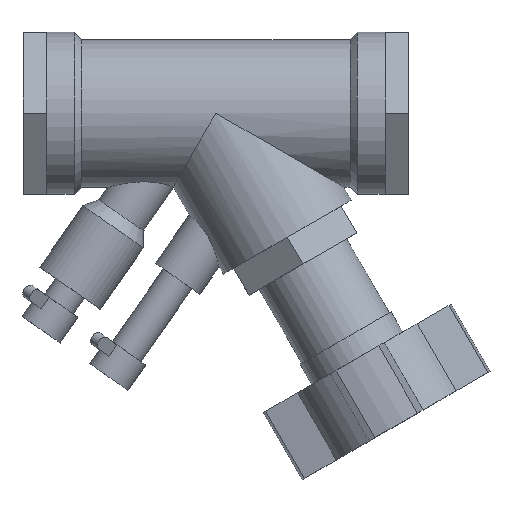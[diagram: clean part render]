
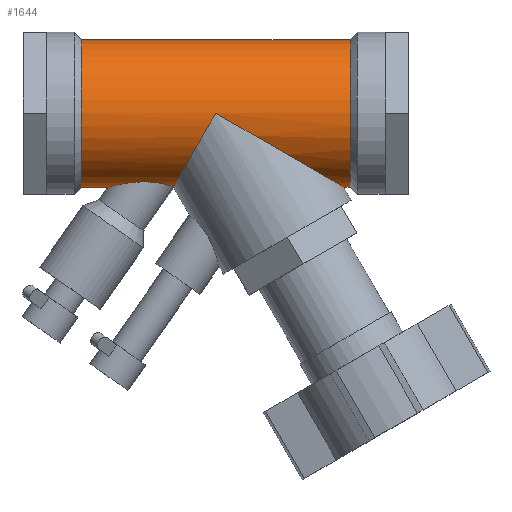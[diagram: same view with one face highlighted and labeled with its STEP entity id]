
A CAD part, top view. The second image highlights one B-rep face of the part: STEP entity #1644.
In plain terms, the highlighted cylindrical face has radius 24.13 mm (diameter 48.26 mm), a full revolution.
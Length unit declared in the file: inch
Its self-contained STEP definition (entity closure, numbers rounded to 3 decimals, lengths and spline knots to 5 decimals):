
#45=ELLIPSE('',#1804,1.9,0.95);
#46=ELLIPSE('',#1805,1.09697,0.95);
#47=ELLIPSE('',#1808,1.09697,0.95);
#48=ELLIPSE('',#1809,1.9,0.95);
#52=B_SPLINE_CURVE_WITH_KNOTS('',3,(#2694,#2695,#2696,#2697,#2698,#2699,
#2700,#2701,#2702,#2703,#2704,#2705,#2706,#2707,#2708,#2709,#2710,#2711,
#2712,#2713,#2714),.UNSPECIFIED.,.F.,.F.,(4,2,2,2,2,3,2,2,2,4),(4.43821,
4.60848,4.77874,5.11927,5.57319,6.02711,
6.40823,6.78935,7.12056,7.25581),
 .UNSPECIFIED.);
#53=B_SPLINE_CURVE_WITH_KNOTS('',3,(#2716,#2717,#2718,#2719,#2720,#2721,
#2722,#2723,#2724,#2725,#2726,#2727,#2728,#2729,#2730,#2731,#2732,#2733,
#2734,#2735),.UNSPECIFIED.,.F.,.F.,(4,2,2,2,2,2,2,2,2,4),(1.62062,
1.75587,2.08708,2.4682,2.84932,3.30324,
3.75715,4.09768,4.26795,4.43821),
 .UNSPECIFIED.);
#135=LINE('',#2748,#269);
#136=LINE('',#2753,#270);
#269=VECTOR('',#2168,0.95);
#270=VECTOR('',#2173,0.95);
#345=CYLINDRICAL_SURFACE('',#1802,0.95);
#415=FACE_OUTER_BOUND('',#510,.T.);
#510=EDGE_LOOP('',(#1234,#1235,#1236,#1237,#1238,#1239,#1240,#1241,#1242,
#1243,#1244,#1245,#1246,#1247));
#604=CIRCLE('',#1803,0.95);
#605=CIRCLE('',#1806,0.95);
#606=CIRCLE('',#1807,0.95);
#607=CIRCLE('',#1810,0.95);
#721=VERTEX_POINT('',#2687);
#723=VERTEX_POINT('',#2693);
#724=VERTEX_POINT('',#2715);
#725=VERTEX_POINT('',#2744);
#726=VERTEX_POINT('',#2745);
#727=VERTEX_POINT('',#2747);
#728=VERTEX_POINT('',#2749);
#729=VERTEX_POINT('',#2752);
#730=VERTEX_POINT('',#2754);
#731=VERTEX_POINT('',#2757);
#907=EDGE_CURVE('',#723,#721,#52,.T.);
#908=EDGE_CURVE('',#724,#723,#53,.T.);
#912=EDGE_CURVE('',#725,#726,#604,.T.);
#913=EDGE_CURVE('',#726,#727,#135,.T.);
#914=EDGE_CURVE('',#727,#728,#45,.T.);
#915=EDGE_CURVE('',#728,#724,#46,.T.);
#916=EDGE_CURVE('',#723,#729,#136,.T.);
#917=EDGE_CURVE('',#729,#730,#605,.T.);
#918=EDGE_CURVE('',#730,#729,#606,.T.);
#919=EDGE_CURVE('',#721,#731,#47,.T.);
#920=EDGE_CURVE('',#731,#727,#48,.T.);
#921=EDGE_CURVE('',#726,#725,#607,.T.);
#1234=ORIENTED_EDGE('',*,*,#912,.T.);
#1235=ORIENTED_EDGE('',*,*,#913,.T.);
#1236=ORIENTED_EDGE('',*,*,#914,.T.);
#1237=ORIENTED_EDGE('',*,*,#915,.T.);
#1238=ORIENTED_EDGE('',*,*,#908,.T.);
#1239=ORIENTED_EDGE('',*,*,#916,.T.);
#1240=ORIENTED_EDGE('',*,*,#917,.T.);
#1241=ORIENTED_EDGE('',*,*,#918,.T.);
#1242=ORIENTED_EDGE('',*,*,#916,.F.);
#1243=ORIENTED_EDGE('',*,*,#907,.T.);
#1244=ORIENTED_EDGE('',*,*,#919,.T.);
#1245=ORIENTED_EDGE('',*,*,#920,.T.);
#1246=ORIENTED_EDGE('',*,*,#913,.F.);
#1247=ORIENTED_EDGE('',*,*,#921,.T.);
#1644=ADVANCED_FACE('',(#415),#345,.T.);
#1802=AXIS2_PLACEMENT_3D('',#2743,#2164,#2165);
#1803=AXIS2_PLACEMENT_3D('',#2746,#2166,#2167);
#1804=AXIS2_PLACEMENT_3D('',#2750,#2169,#2170);
#1805=AXIS2_PLACEMENT_3D('',#2751,#2171,#2172);
#1806=AXIS2_PLACEMENT_3D('',#2755,#2174,#2175);
#1807=AXIS2_PLACEMENT_3D('',#2756,#2176,#2177);
#1808=AXIS2_PLACEMENT_3D('',#2758,#2178,#2179);
#1809=AXIS2_PLACEMENT_3D('',#2759,#2180,#2181);
#1810=AXIS2_PLACEMENT_3D('',#2760,#2182,#2183);
#2164=DIRECTION('center_axis',(1.,0.,0.));
#2165=DIRECTION('ref_axis',(0.,1.,0.));
#2166=DIRECTION('center_axis',(-1.,0.,0.));
#2167=DIRECTION('ref_axis',(0.,1.,0.));
#2168=DIRECTION('',(-1.,0.,0.));
#2169=DIRECTION('center_axis',(0.5,0.866,0.));
#2170=DIRECTION('ref_axis',(-0.866,0.5,0.));
#2171=DIRECTION('center_axis',(-0.866,0.5,0.));
#2172=DIRECTION('ref_axis',(-0.5,-0.866,0.));
#2173=DIRECTION('',(-1.,0.,0.));
#2174=DIRECTION('center_axis',(1.,0.,0.));
#2175=DIRECTION('ref_axis',(0.,1.,0.));
#2176=DIRECTION('center_axis',(1.,0.,0.));
#2177=DIRECTION('ref_axis',(0.,1.,0.));
#2178=DIRECTION('center_axis',(-0.866,0.5,0.));
#2179=DIRECTION('ref_axis',(-0.5,-0.866,0.));
#2180=DIRECTION('center_axis',(0.5,0.866,0.));
#2181=DIRECTION('ref_axis',(-0.866,0.5,0.));
#2182=DIRECTION('center_axis',(-1.,0.,0.));
#2183=DIRECTION('ref_axis',(0.,1.,0.));
#2687=CARTESIAN_POINT('',(-0.54659,-0.94673,0.07876));
#2693=CARTESIAN_POINT('',(-1.39247,-0.95,0.));
#2694=CARTESIAN_POINT('Ctrl Pts',(-1.39247,-0.95,0.));
#2695=CARTESIAN_POINT('Ctrl Pts',(-1.39247,-0.95,0.02234));
#2696=CARTESIAN_POINT('Ctrl Pts',(-1.38925,-0.94919,
0.04487));
#2697=CARTESIAN_POINT('Ctrl Pts',(-1.37669,-0.94611,
0.08869));
#2698=CARTESIAN_POINT('Ctrl Pts',(-1.36736,-0.94383,0.10999));
#2699=CARTESIAN_POINT('Ctrl Pts',(-1.33219,-0.93552,
0.17009));
#2700=CARTESIAN_POINT('Ctrl Pts',(-1.2989,-0.92802,
0.20512));
#2701=CARTESIAN_POINT('Ctrl Pts',(-1.21818,-0.91187,
0.26908));
#2702=CARTESIAN_POINT('Ctrl Pts',(-1.16172,-0.90198,
0.29899));
#2703=CARTESIAN_POINT('Ctrl Pts',(-1.04164,-0.88753,
0.33948));
#2704=CARTESIAN_POINT('Ctrl Pts',(-0.97798,-0.88318,
0.35));
#2705=CARTESIAN_POINT('Ctrl Pts',(-0.91841,-0.88318,
0.35));
#2706=CARTESIAN_POINT('Ctrl Pts',(-0.86839,-0.88318,
0.35));
#2707=CARTESIAN_POINT('Ctrl Pts',(-0.81443,-0.88637,
0.34235));
#2708=CARTESIAN_POINT('Ctrl Pts',(-0.71555,-0.89937,
0.30658));
#2709=CARTESIAN_POINT('Ctrl Pts',(-0.67068,-0.90905,
0.27826));
#2710=CARTESIAN_POINT('Ctrl Pts',(-0.60584,-0.9263,
0.21317));
#2711=CARTESIAN_POINT('Ctrl Pts',(-0.58006,-0.93479,
0.17463));
#2712=CARTESIAN_POINT('Ctrl Pts',(-0.55618,-0.94319,
0.11487));
#2713=CARTESIAN_POINT('Ctrl Pts',(-0.55066,-0.94522,
0.09692));
#2714=CARTESIAN_POINT('Ctrl Pts',(-0.54659,-0.94673,
0.07876));
#2715=CARTESIAN_POINT('',(-0.54659,-0.94673,-0.07876));
#2716=CARTESIAN_POINT('Ctrl Pts',(-0.54659,-0.94673,
-0.07876));
#2717=CARTESIAN_POINT('Ctrl Pts',(-0.55066,-0.94522,
-0.09692));
#2718=CARTESIAN_POINT('Ctrl Pts',(-0.55618,-0.94319,
-0.11487));
#2719=CARTESIAN_POINT('Ctrl Pts',(-0.58006,-0.93479,
-0.17463));
#2720=CARTESIAN_POINT('Ctrl Pts',(-0.60584,-0.9263,
-0.21317));
#2721=CARTESIAN_POINT('Ctrl Pts',(-0.67068,-0.90905,
-0.27826));
#2722=CARTESIAN_POINT('Ctrl Pts',(-0.71555,-0.89937,
-0.30658));
#2723=CARTESIAN_POINT('Ctrl Pts',(-0.81443,-0.88637,
-0.34235));
#2724=CARTESIAN_POINT('Ctrl Pts',(-0.86839,-0.88318,
-0.35));
#2725=CARTESIAN_POINT('Ctrl Pts',(-0.97798,-0.88318,
-0.35));
#2726=CARTESIAN_POINT('Ctrl Pts',(-1.04164,-0.88753,
-0.33948));
#2727=CARTESIAN_POINT('Ctrl Pts',(-1.16172,-0.90198,
-0.29899));
#2728=CARTESIAN_POINT('Ctrl Pts',(-1.21818,-0.91187,
-0.26908));
#2729=CARTESIAN_POINT('Ctrl Pts',(-1.2989,-0.92802,
-0.20512));
#2730=CARTESIAN_POINT('Ctrl Pts',(-1.33219,-0.93552,
-0.17009));
#2731=CARTESIAN_POINT('Ctrl Pts',(-1.36736,-0.94383,-0.10999));
#2732=CARTESIAN_POINT('Ctrl Pts',(-1.37669,-0.94611,
-0.08869));
#2733=CARTESIAN_POINT('Ctrl Pts',(-1.38925,-0.94919,
-0.04487));
#2734=CARTESIAN_POINT('Ctrl Pts',(-1.39247,-0.95,-0.02234));
#2735=CARTESIAN_POINT('Ctrl Pts',(-1.39247,-0.95,0.));
#2743=CARTESIAN_POINT('Origin',(0.,0.,
0.));
#2744=CARTESIAN_POINT('',(1.73,0.95,0.));
#2745=CARTESIAN_POINT('',(1.73,-0.95,0.));
#2746=CARTESIAN_POINT('Origin',(1.73,0.,0.));
#2747=CARTESIAN_POINT('',(1.64545,-0.95,0.));
#2748=CARTESIAN_POINT('',(0.,-0.95,0.));
#2749=CARTESIAN_POINT('',(0.,0.,-0.95));
#2750=CARTESIAN_POINT('Origin',(0.,0.,
0.));
#2751=CARTESIAN_POINT('Origin',(0.,0.,0.));
#2752=CARTESIAN_POINT('',(-1.73,-0.95,0.));
#2753=CARTESIAN_POINT('',(0.,-0.95,0.));
#2754=CARTESIAN_POINT('',(-1.73,0.95,0.));
#2755=CARTESIAN_POINT('Origin',(-1.73,0.,0.));
#2756=CARTESIAN_POINT('Origin',(-1.73,0.,0.));
#2757=CARTESIAN_POINT('',(0.,0.,0.95));
#2758=CARTESIAN_POINT('Origin',(0.,0.,0.));
#2759=CARTESIAN_POINT('Origin',(0.,0.,
0.));
#2760=CARTESIAN_POINT('Origin',(1.73,0.,0.));
